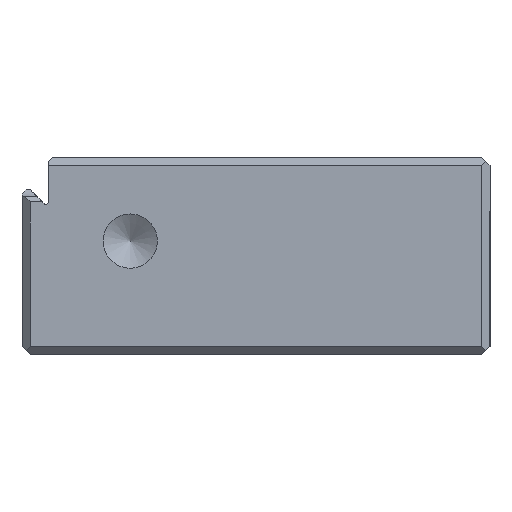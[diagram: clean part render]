
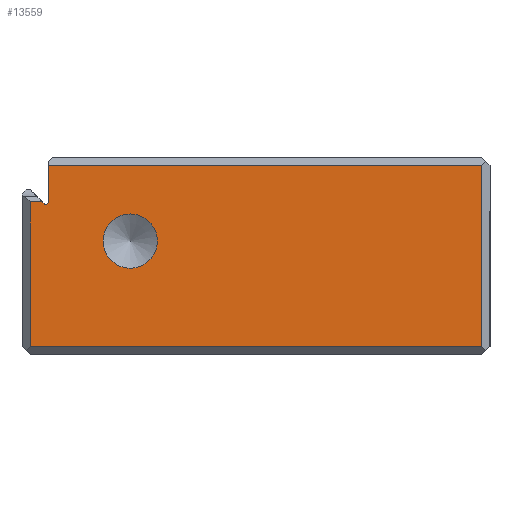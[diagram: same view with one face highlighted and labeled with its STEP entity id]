
A CAD part, left-side view. The second image highlights one B-rep face of the part: STEP entity #13559.
In plain terms, the highlighted planar face has unit normal (-1, 0, 0).
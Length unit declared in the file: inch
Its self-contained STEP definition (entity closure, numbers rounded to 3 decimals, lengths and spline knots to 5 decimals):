
#763 = EDGE_CURVE ( 'NONE', #9174, #8708, #9943, .T. ) ;
#1204 = VERTEX_POINT ( 'NONE', #20455 ) ;
#1212 = ORIENTED_EDGE ( 'NONE', *, *, #14292, .T. ) ;
#2060 = VERTEX_POINT ( 'NONE', #20645 ) ;
#2211 = FACE_BOUND ( 'NONE', #4344, .T. ) ;
#2301 = ORIENTED_EDGE ( 'NONE', *, *, #7252, .T. ) ;
#2557 = EDGE_CURVE ( 'NONE', #13090, #1204, #19126, .T. ) ;
#2843 = ORIENTED_EDGE ( 'NONE', *, *, #20123, .F. ) ;
#2910 = DIRECTION ( 'NONE',  ( 0., 0., -1. ) ) ;
#3356 = AXIS2_PLACEMENT_3D ( 'NONE', #12609, #16429, #6574 ) ;
#4325 = DIRECTION ( 'NONE',  ( 0., 1., 0. ) ) ;
#4344 = EDGE_LOOP ( 'NONE', ( #2843 ) ) ;
#4399 = VECTOR ( 'NONE', #2910, 39.37008 ) ;
#4416 = ORIENTED_EDGE ( 'NONE', *, *, #2557, .T. ) ;
#4540 = ORIENTED_EDGE ( 'NONE', *, *, #20267, .T. ) ;
#4608 = DIRECTION ( 'NONE',  ( 0., 0.707, 0.707 ) ) ;
#4632 = VERTEX_POINT ( 'NONE', #13124 ) ;
#4677 = DIRECTION ( 'NONE',  ( 0., 1., 0. ) ) ;
#4799 = VECTOR ( 'NONE', #4608, 39.37008 ) ;
#5066 = CIRCLE ( 'NONE', #3356, 0.01 ) ;
#5185 = VERTEX_POINT ( 'NONE', #17869 ) ;
#5221 = ORIENTED_EDGE ( 'NONE', *, *, #7948, .T. ) ;
#5322 = DIRECTION ( 'NONE',  ( 0., -1., 0. ) ) ;
#5876 = CARTESIAN_POINT ( 'NONE',  ( 0., 1.64157, -0.19843 ) ) ;
#6104 = AXIS2_PLACEMENT_3D ( 'NONE', #16286, #14768, #13067 ) ;
#6483 = CARTESIAN_POINT ( 'NONE',  ( 0., 1.64157, -0.01 ) ) ;
#6524 = LINE ( 'NONE', #11152, #9459 ) ;
#6574 = DIRECTION ( 'NONE',  ( 0., 0., 1. ) ) ;
#6708 = CARTESIAN_POINT ( 'NONE',  ( 0., 1.665, -0.175 ) ) ;
#6975 = DIRECTION ( 'NONE',  ( -1., 0., 0. ) ) ;
#7252 = EDGE_CURVE ( 'NONE', #4632, #13090, #10711, .T. ) ;
#7885 = DIRECTION ( 'NONE',  ( 0., 0., -1. ) ) ;
#7948 = EDGE_CURVE ( 'NONE', #14096, #4632, #5066, .T. ) ;
#8409 = EDGE_CURVE ( 'NONE', #1204, #9174, #6524, .T. ) ;
#8653 = PLANE ( 'NONE',  #18320 ) ;
#8708 = VERTEX_POINT ( 'NONE', #19294 ) ;
#9174 = VERTEX_POINT ( 'NONE', #17765 ) ;
#9459 = VECTOR ( 'NONE', #7885, 39.37008 ) ;
#9807 = VECTOR ( 'NONE', #5322, 39.37008 ) ;
#9943 = LINE ( 'NONE', #19579, #9807 ) ;
#10246 = EDGE_LOOP ( 'NONE', ( #2301, #4416, #10757, #18324, #1212, #15593, #4540, #5221 ) ) ;
#10248 = CARTESIAN_POINT ( 'NONE',  ( 0., 0., 0. ) ) ;
#10272 = CARTESIAN_POINT ( 'NONE',  ( 0., 1.64157, -0.17428 ) ) ;
#10568 = VECTOR ( 'NONE', #4325, 39.37008 ) ;
#10711 = LINE ( 'NONE', #5876, #4799 ) ;
#10757 = ORIENTED_EDGE ( 'NONE', *, *, #8409, .T. ) ;
#10992 = CARTESIAN_POINT ( 'NONE',  ( 0., 0.04, -0.05 ) ) ;
#11087 = LINE ( 'NONE', #10992, #13999 ) ;
#11152 = CARTESIAN_POINT ( 'NONE',  ( 0., 1.71, -0.7 ) ) ;
#11309 = EDGE_CURVE ( 'NONE', #2060, #12030, #19162, .T. ) ;
#11718 = FACE_OUTER_BOUND ( 'NONE', #10246, .T. ) ;
#12030 = VERTEX_POINT ( 'NONE', #12739 ) ;
#12609 = CARTESIAN_POINT ( 'NONE',  ( 0., 1.65157, -0.17428 ) ) ;
#12739 = CARTESIAN_POINT ( 'NONE',  ( 0., 1.64157, -0.04 ) ) ;
#13067 = DIRECTION ( 'NONE',  ( 0., 0., 1. ) ) ;
#13090 = VERTEX_POINT ( 'NONE', #6708 ) ;
#13124 = CARTESIAN_POINT ( 'NONE',  ( 0., 1.65865, -0.18135 ) ) ;
#13559 = ADVANCED_FACE ( 'NONE', ( #11718, #2211 ), #8653, .T. ) ;
#13999 = VECTOR ( 'NONE', #15993, 39.37008 ) ;
#14096 = VERTEX_POINT ( 'NONE', #10272 ) ;
#14217 = CIRCLE ( 'NONE', #6104, 0.1005 ) ;
#14292 = EDGE_CURVE ( 'NONE', #8708, #2060, #11087, .T. ) ;
#14512 = LINE ( 'NONE', #6483, #4399 ) ;
#14768 = DIRECTION ( 'NONE',  ( -1., 0., 0. ) ) ;
#14969 = VECTOR ( 'NONE', #4677, 39.37008 ) ;
#15593 = ORIENTED_EDGE ( 'NONE', *, *, #11309, .T. ) ;
#15993 = DIRECTION ( 'NONE',  ( 0., 0., 1. ) ) ;
#16286 = CARTESIAN_POINT ( 'NONE',  ( 0., 1.34, -0.32 ) ) ;
#16429 = DIRECTION ( 'NONE',  ( 1., 0., 0. ) ) ;
#17586 = CARTESIAN_POINT ( 'NONE',  ( 0., 1.65, -0.04 ) ) ;
#17765 = CARTESIAN_POINT ( 'NONE',  ( 0., 1.71, -0.71 ) ) ;
#17869 = CARTESIAN_POINT ( 'NONE',  ( 0., 1.34, -0.2195 ) ) ;
#18320 = AXIS2_PLACEMENT_3D ( 'NONE', #10248, #6975, #19682 ) ;
#18324 = ORIENTED_EDGE ( 'NONE', *, *, #763, .T. ) ;
#19126 = LINE ( 'NONE', #20579, #10568 ) ;
#19162 = LINE ( 'NONE', #17586, #14969 ) ;
#19294 = CARTESIAN_POINT ( 'NONE',  ( 0., 0.04, -0.71 ) ) ;
#19579 = CARTESIAN_POINT ( 'NONE',  ( 0., 0., -0.71 ) ) ;
#19682 = DIRECTION ( 'NONE',  ( 0., 0., 1. ) ) ;
#20123 = EDGE_CURVE ( 'NONE', #5185, #5185, #14217, .T. ) ;
#20267 = EDGE_CURVE ( 'NONE', #12030, #14096, #14512, .T. ) ;
#20455 = CARTESIAN_POINT ( 'NONE',  ( 0., 1.71, -0.175 ) ) ;
#20579 = CARTESIAN_POINT ( 'NONE',  ( 0., 1.71, -0.175 ) ) ;
#20645 = CARTESIAN_POINT ( 'NONE',  ( 0., 0.04, -0.04 ) ) ;
